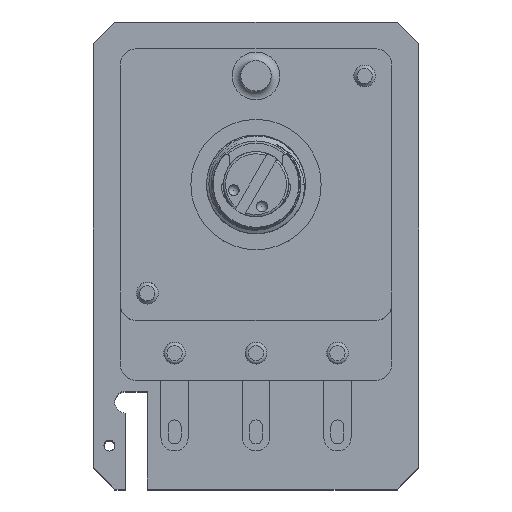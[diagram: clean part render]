
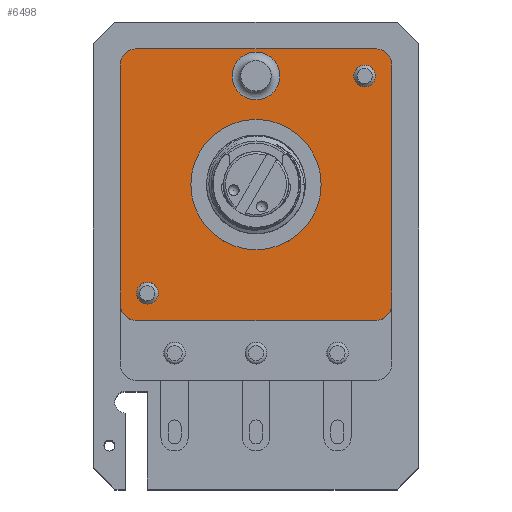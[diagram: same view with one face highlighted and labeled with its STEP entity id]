
A CAD part, top view. The second image highlights one B-rep face of the part: STEP entity #6498.
In plain terms, the highlighted planar face has unit normal (0, 0, 1).
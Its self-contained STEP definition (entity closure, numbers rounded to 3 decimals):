
#6434 = EDGE_CURVE('',#6435,#6435,#6437,.T.);
#6435 = VERTEX_POINT('',#6436);
#6436 = CARTESIAN_POINT('',(6.,0.,-1.));
#6437 = CIRCLE('',#6438,6.);
#6438 = AXIS2_PLACEMENT_3D('',#6439,#6440,#6441);
#6439 = CARTESIAN_POINT('',(0.,0.,-1.));
#6440 = DIRECTION('',(0.,0.,1.));
#6441 = DIRECTION('',(1.,0.,-0.));
#6498 = ADVANCED_FACE('',(#6499,#6569,#6580,#6583,#6594),#6605,.T.);
#6499 = FACE_BOUND('',#6500,.T.);
#6500 = EDGE_LOOP('',(#6501,#6511,#6520,#6528,#6537,#6545,#6554,#6562));
#6501 = ORIENTED_EDGE('',*,*,#6502,.F.);
#6502 = EDGE_CURVE('',#6503,#6505,#6507,.T.);
#6503 = VERTEX_POINT('',#6504);
#6504 = CARTESIAN_POINT('',(-12.5,-11.,-1.));
#6505 = VERTEX_POINT('',#6506);
#6506 = CARTESIAN_POINT('',(-12.5,11.,-1.));
#6507 = LINE('',#6508,#6509);
#6508 = CARTESIAN_POINT('',(-12.5,-12.5,-1.));
#6509 = VECTOR('',#6510,1.);
#6510 = DIRECTION('',(0.,1.,0.));
#6511 = ORIENTED_EDGE('',*,*,#6512,.T.);
#6512 = EDGE_CURVE('',#6503,#6513,#6515,.T.);
#6513 = VERTEX_POINT('',#6514);
#6514 = CARTESIAN_POINT('',(-11.,-12.5,-1.));
#6515 = CIRCLE('',#6516,1.5);
#6516 = AXIS2_PLACEMENT_3D('',#6517,#6518,#6519);
#6517 = CARTESIAN_POINT('',(-11.,-11.,-1.));
#6518 = DIRECTION('',(-0.,0.,1.));
#6519 = DIRECTION('',(0.,-1.,0.));
#6520 = ORIENTED_EDGE('',*,*,#6521,.T.);
#6521 = EDGE_CURVE('',#6513,#6522,#6524,.T.);
#6522 = VERTEX_POINT('',#6523);
#6523 = CARTESIAN_POINT('',(11.,-12.5,-1.));
#6524 = LINE('',#6525,#6526);
#6525 = CARTESIAN_POINT('',(-12.5,-12.5,-1.));
#6526 = VECTOR('',#6527,1.);
#6527 = DIRECTION('',(1.,0.,0.));
#6528 = ORIENTED_EDGE('',*,*,#6529,.T.);
#6529 = EDGE_CURVE('',#6522,#6530,#6532,.T.);
#6530 = VERTEX_POINT('',#6531);
#6531 = CARTESIAN_POINT('',(12.5,-11.,-1.));
#6532 = CIRCLE('',#6533,1.5);
#6533 = AXIS2_PLACEMENT_3D('',#6534,#6535,#6536);
#6534 = CARTESIAN_POINT('',(11.,-11.,-1.));
#6535 = DIRECTION('',(-0.,0.,1.));
#6536 = DIRECTION('',(0.,-1.,0.));
#6537 = ORIENTED_EDGE('',*,*,#6538,.T.);
#6538 = EDGE_CURVE('',#6530,#6539,#6541,.T.);
#6539 = VERTEX_POINT('',#6540);
#6540 = CARTESIAN_POINT('',(12.5,11.,-1.));
#6541 = LINE('',#6542,#6543);
#6542 = CARTESIAN_POINT('',(12.5,-12.5,-1.));
#6543 = VECTOR('',#6544,1.);
#6544 = DIRECTION('',(0.,1.,0.));
#6545 = ORIENTED_EDGE('',*,*,#6546,.F.);
#6546 = EDGE_CURVE('',#6547,#6539,#6549,.T.);
#6547 = VERTEX_POINT('',#6548);
#6548 = CARTESIAN_POINT('',(11.,12.5,-1.));
#6549 = CIRCLE('',#6550,1.5);
#6550 = AXIS2_PLACEMENT_3D('',#6551,#6552,#6553);
#6551 = CARTESIAN_POINT('',(11.,11.,-1.));
#6552 = DIRECTION('',(-0.,-0.,-1.));
#6553 = DIRECTION('',(0.,-1.,0.));
#6554 = ORIENTED_EDGE('',*,*,#6555,.F.);
#6555 = EDGE_CURVE('',#6556,#6547,#6558,.T.);
#6556 = VERTEX_POINT('',#6557);
#6557 = CARTESIAN_POINT('',(-11.,12.5,-1.));
#6558 = LINE('',#6559,#6560);
#6559 = CARTESIAN_POINT('',(-12.5,12.5,-1.));
#6560 = VECTOR('',#6561,1.);
#6561 = DIRECTION('',(1.,0.,0.));
#6562 = ORIENTED_EDGE('',*,*,#6563,.F.);
#6563 = EDGE_CURVE('',#6505,#6556,#6564,.T.);
#6564 = CIRCLE('',#6565,1.5);
#6565 = AXIS2_PLACEMENT_3D('',#6566,#6567,#6568);
#6566 = CARTESIAN_POINT('',(-11.,11.,-1.));
#6567 = DIRECTION('',(-0.,-0.,-1.));
#6568 = DIRECTION('',(0.,-1.,0.));
#6569 = FACE_BOUND('',#6570,.T.);
#6570 = EDGE_LOOP('',(#6571));
#6571 = ORIENTED_EDGE('',*,*,#6572,.T.);
#6572 = EDGE_CURVE('',#6573,#6573,#6575,.T.);
#6573 = VERTEX_POINT('',#6574);
#6574 = CARTESIAN_POINT('',(-9.,-10.,-1.));
#6575 = CIRCLE('',#6576,1.);
#6576 = AXIS2_PLACEMENT_3D('',#6577,#6578,#6579);
#6577 = CARTESIAN_POINT('',(-10.,-10.,-1.));
#6578 = DIRECTION('',(0.,0.,-1.));
#6579 = DIRECTION('',(1.,0.,0.));
#6580 = FACE_BOUND('',#6581,.T.);
#6581 = EDGE_LOOP('',(#6582));
#6582 = ORIENTED_EDGE('',*,*,#6434,.F.);
#6583 = FACE_BOUND('',#6584,.T.);
#6584 = EDGE_LOOP('',(#6585));
#6585 = ORIENTED_EDGE('',*,*,#6586,.F.);
#6586 = EDGE_CURVE('',#6587,#6587,#6589,.T.);
#6587 = VERTEX_POINT('',#6588);
#6588 = CARTESIAN_POINT('',(2.2,10.,-1.));
#6589 = CIRCLE('',#6590,2.2);
#6590 = AXIS2_PLACEMENT_3D('',#6591,#6592,#6593);
#6591 = CARTESIAN_POINT('',(0.,10.,-1.));
#6592 = DIRECTION('',(0.,0.,1.));
#6593 = DIRECTION('',(1.,0.,-0.));
#6594 = FACE_BOUND('',#6595,.T.);
#6595 = EDGE_LOOP('',(#6596));
#6596 = ORIENTED_EDGE('',*,*,#6597,.T.);
#6597 = EDGE_CURVE('',#6598,#6598,#6600,.T.);
#6598 = VERTEX_POINT('',#6599);
#6599 = CARTESIAN_POINT('',(11.,10.,-1.));
#6600 = CIRCLE('',#6601,1.);
#6601 = AXIS2_PLACEMENT_3D('',#6602,#6603,#6604);
#6602 = CARTESIAN_POINT('',(10.,10.,-1.));
#6603 = DIRECTION('',(0.,0.,-1.));
#6604 = DIRECTION('',(1.,0.,0.));
#6605 = PLANE('',#6606);
#6606 = AXIS2_PLACEMENT_3D('',#6607,#6608,#6609);
#6607 = CARTESIAN_POINT('',(-12.5,-12.5,-1.));
#6608 = DIRECTION('',(0.,0.,1.));
#6609 = DIRECTION('',(1.,0.,-0.));
